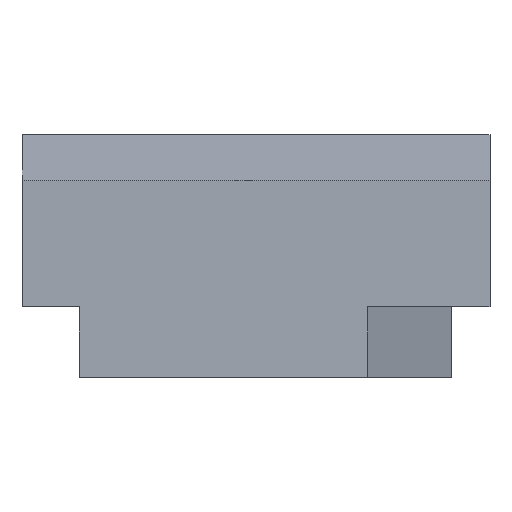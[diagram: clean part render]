
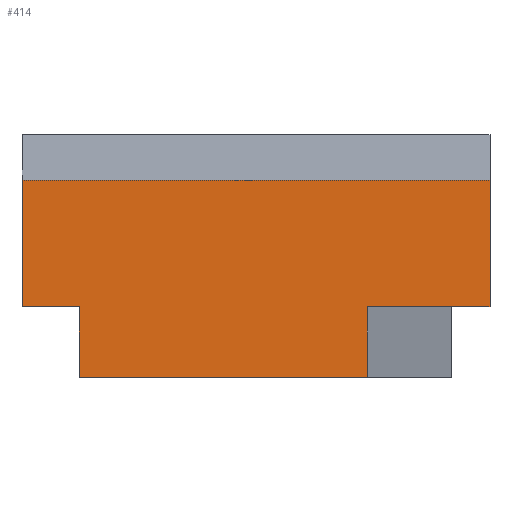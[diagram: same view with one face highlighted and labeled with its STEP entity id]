
A CAD part, front view. The second image highlights one B-rep face of the part: STEP entity #414.
In plain terms, the highlighted planar face has unit normal (0, -1, 0).
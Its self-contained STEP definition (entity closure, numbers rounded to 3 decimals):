
#39=FACE_OUTER_BOUND('',#60,.T.);
#60=EDGE_LOOP('',(#364,#365,#366,#367,#368,#369,#370,#371));
#80=LINE('',#588,#133);
#86=LINE('',#600,#139);
#91=LINE('',#612,#144);
#99=LINE('',#627,#152);
#105=LINE('',#642,#158);
#107=LINE('',#645,#160);
#108=LINE('',#648,#161);
#114=LINE('',#659,#167);
#133=VECTOR('',#478,13.);
#139=VECTOR('',#486,27.818);
#144=VECTOR('',#495,28.688);
#152=VECTOR('',#507,16.);
#158=VECTOR('',#523,16.);
#160=VECTOR('',#527,65.182);
#161=VECTOR('',#530,106.);
#167=VECTOR('',#542,28.688);
#182=VERTEX_POINT('',#585);
#183=VERTEX_POINT('',#587);
#187=VERTEX_POINT('',#597);
#188=VERTEX_POINT('',#599);
#193=VERTEX_POINT('',#611);
#198=VERTEX_POINT('',#625);
#202=VERTEX_POINT('',#641);
#203=VERTEX_POINT('',#647);
#226=EDGE_CURVE('',#183,#182,#80,.T.);
#232=EDGE_CURVE('',#188,#187,#86,.T.);
#238=EDGE_CURVE('',#183,#193,#91,.T.);
#246=EDGE_CURVE('',#198,#182,#99,.T.);
#253=EDGE_CURVE('',#202,#188,#105,.T.);
#255=EDGE_CURVE('',#198,#202,#107,.T.);
#256=EDGE_CURVE('',#203,#193,#108,.T.);
#262=EDGE_CURVE('',#203,#187,#114,.T.);
#364=ORIENTED_EDGE('',*,*,#226,.T.);
#365=ORIENTED_EDGE('',*,*,#246,.F.);
#366=ORIENTED_EDGE('',*,*,#255,.T.);
#367=ORIENTED_EDGE('',*,*,#253,.T.);
#368=ORIENTED_EDGE('',*,*,#232,.T.);
#369=ORIENTED_EDGE('',*,*,#262,.F.);
#370=ORIENTED_EDGE('',*,*,#256,.T.);
#371=ORIENTED_EDGE('',*,*,#238,.F.);
#394=PLANE('',#440);
#414=ADVANCED_FACE('',(#39),#394,.T.);
#440=AXIS2_PLACEMENT_3D('',#658,#540,#541);
#478=DIRECTION('',(1.,0.,0.));
#486=DIRECTION('',(1.,0.,0.));
#495=DIRECTION('',(0.,0.,1.));
#507=DIRECTION('',(0.,0.,1.));
#523=DIRECTION('',(0.,0.,1.));
#527=DIRECTION('',(1.,0.,0.));
#530=DIRECTION('',(-1.,0.,0.));
#540=DIRECTION('center_axis',(0.,-1.,0.));
#541=DIRECTION('ref_axis',(0.,0.,-1.));
#542=DIRECTION('',(0.,0.,-1.));
#585=CARTESIAN_POINT('',(-40.,0.,-28.688));
#587=CARTESIAN_POINT('',(-53.,0.,-28.688));
#588=CARTESIAN_POINT('',(0.,0.,-28.688));
#597=CARTESIAN_POINT('',(53.,0.,-28.688));
#599=CARTESIAN_POINT('',(25.182,0.,-28.688));
#600=CARTESIAN_POINT('',(0.,0.,-28.688));
#611=CARTESIAN_POINT('',(-53.,0.,0.));
#612=CARTESIAN_POINT('',(-53.,0.,0.));
#625=CARTESIAN_POINT('',(-40.,0.,-44.688));
#627=CARTESIAN_POINT('',(-40.,0.,-44.688));
#641=CARTESIAN_POINT('',(25.182,0.,-44.688));
#642=CARTESIAN_POINT('',(25.182,0.,-44.688));
#645=CARTESIAN_POINT('',(-40.,0.,-44.688));
#647=CARTESIAN_POINT('',(53.,0.,0.));
#648=CARTESIAN_POINT('',(0.,0.,0.));
#658=CARTESIAN_POINT('Origin',(0.,0.,0.));
#659=CARTESIAN_POINT('',(53.,0.,0.));
